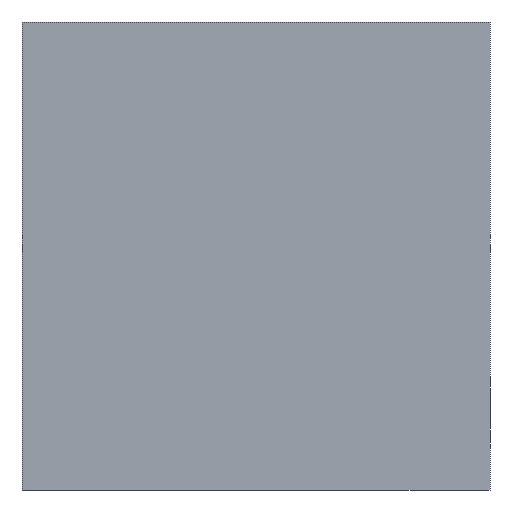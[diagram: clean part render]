
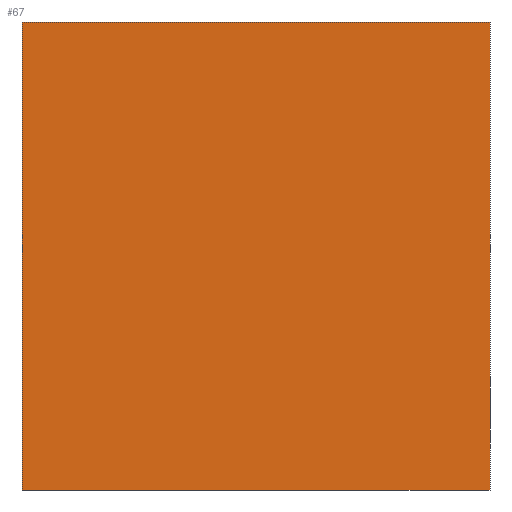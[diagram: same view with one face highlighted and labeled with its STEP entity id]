
A CAD part, left-side view. The second image highlights one B-rep face of the part: STEP entity #67.
In plain terms, the highlighted planar face has unit normal (-1, 0, 0).
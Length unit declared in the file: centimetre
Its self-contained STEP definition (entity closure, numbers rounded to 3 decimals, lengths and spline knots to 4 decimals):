
#67 = ADVANCED_FACE ( 'NONE', ( #430 ), #874, .F. ) ;
#97 = DIRECTION ( 'NONE',  ( 0., 0., -1. ) ) ;
#117 = VECTOR ( 'NONE', #193, 100. ) ;
#141 = CARTESIAN_POINT ( 'NONE',  ( 0., 1000., 0. ) ) ;
#143 = EDGE_CURVE ( 'NONE', #391, #532, #713, .T. ) ;
#164 = LINE ( 'NONE', #141, #616 ) ;
#173 = EDGE_CURVE ( 'NONE', #446, #966, #180, .T. ) ;
#180 = LINE ( 'NONE', #292, #450 ) ;
#193 = DIRECTION ( 'NONE',  ( 0., -1., 0. ) ) ;
#251 = AXIS2_PLACEMENT_3D ( 'NONE', #276, #1058, #97 ) ;
#252 = ORIENTED_EDGE ( 'NONE', *, *, #866, .F. ) ;
#276 = CARTESIAN_POINT ( 'NONE',  ( 0., 1000., 1000. ) ) ;
#283 = CARTESIAN_POINT ( 'NONE',  ( 0., 1000., 1000. ) ) ;
#292 = CARTESIAN_POINT ( 'NONE',  ( 0., 0., 1000. ) ) ;
#311 = CARTESIAN_POINT ( 'NONE',  ( 0., 1000., 0. ) ) ;
#360 = LINE ( 'NONE', #618, #117 ) ;
#391 = VERTEX_POINT ( 'NONE', #461 ) ;
#430 = FACE_OUTER_BOUND ( 'NONE', #593, .T. ) ;
#446 = VERTEX_POINT ( 'NONE', #1084 ) ;
#450 = VECTOR ( 'NONE', #1061, 100. ) ;
#458 = ORIENTED_EDGE ( 'NONE', *, *, #143, .T. ) ;
#461 = CARTESIAN_POINT ( 'NONE',  ( 0., 1000., 1000. ) ) ;
#472 = CARTESIAN_POINT ( 'NONE',  ( 0., 0., 0. ) ) ;
#532 = VERTEX_POINT ( 'NONE', #311 ) ;
#593 = EDGE_LOOP ( 'NONE', ( #823, #758, #252, #458 ) ) ;
#616 = VECTOR ( 'NONE', #766, 100. ) ;
#618 = CARTESIAN_POINT ( 'NONE',  ( 0., 1000., 1000. ) ) ;
#713 = LINE ( 'NONE', #283, #845 ) ;
#758 = ORIENTED_EDGE ( 'NONE', *, *, #173, .F. ) ;
#766 = DIRECTION ( 'NONE',  ( 0., -1., 0. ) ) ;
#823 = ORIENTED_EDGE ( 'NONE', *, *, #1086, .T. ) ;
#845 = VECTOR ( 'NONE', #940, 100. ) ;
#866 = EDGE_CURVE ( 'NONE', #391, #446, #360, .T. ) ;
#874 = PLANE ( 'NONE',  #251 ) ;
#940 = DIRECTION ( 'NONE',  ( 0., 0., -1. ) ) ;
#966 = VERTEX_POINT ( 'NONE', #472 ) ;
#1058 = DIRECTION ( 'NONE',  ( 1., 0., 0. ) ) ;
#1061 = DIRECTION ( 'NONE',  ( 0., 0., -1. ) ) ;
#1084 = CARTESIAN_POINT ( 'NONE',  ( 0., 0., 1000. ) ) ;
#1086 = EDGE_CURVE ( 'NONE', #532, #966, #164, .T. ) ;
